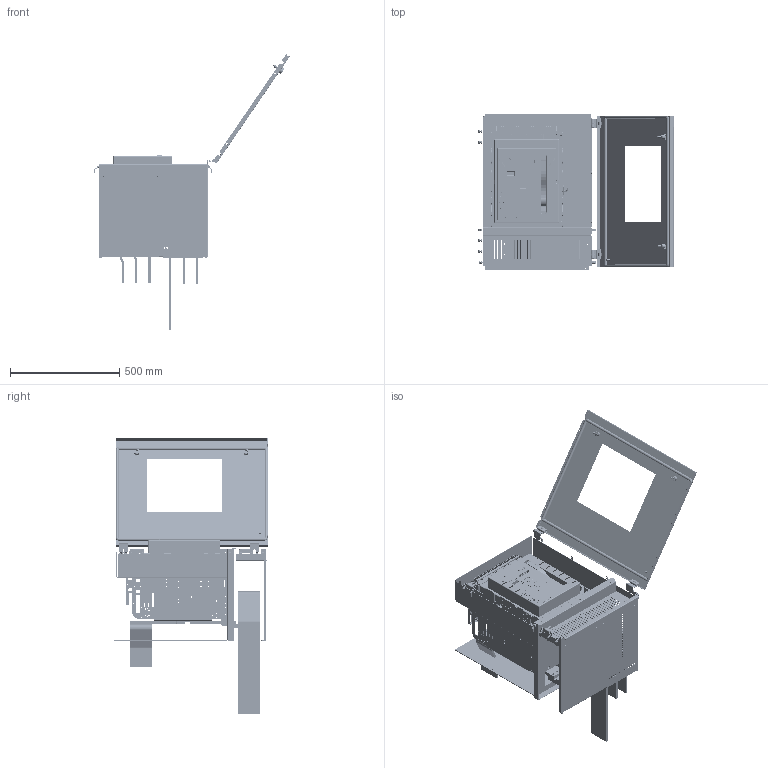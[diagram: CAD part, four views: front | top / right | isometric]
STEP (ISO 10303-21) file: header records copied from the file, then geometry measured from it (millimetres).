
FILE_DESCRIPTION(('CAx-IF Rec.Pracs.---Model Styling and Organization---1.2---2011-12-15','CAx-IF Rec.Pracs.---Geometric and Assembly Validation Properties---4.1---2014-06-16','CAx-IF Rec.Pracs.---PMI Polyline Presentation---2.0---2013-05-24'),'2;1');
FILE_NAME('R5M214IB5H61521R.stp','2021-05-05T12:51:30+03:00',(''),(''),'STEP Interface 4.4 by CT CoreTechnologie','3D_Evolution4.4 by CT CoreTechnologie','');
FILE_SCHEMA(('AUTOMOTIVE_DESIGN { 1 0 10303 214 1 1 1 1 }'));
Length unit declared in the file: millimetre
Products named in the file (32): R5M214IB5H61521R(äâóñòîðîííèé); M6 x 16-DIN 7991 ISR_thread; HNDT3W_-00; AC00C485; RB.0687.00.00.1_-00; HNDDR2W_-00; HNDDR1W_-00; HNDDR3W_-00 (HND); MS737-1-1(1); MS737-1-1 Z_ ªàëâ; MS737-1-1 stop_fixed; RB.1595.00.00.1_-00 (HND W); MS737-1-1(2); HGN06-16 W 3P_-01 (¢¥àå­¨¥ ª®­â ªâë); RB.1227.00.00.0_-01; HNDO_-01; RB.1454.00.00.0_-00; RB.1453.00.00.0_-00; RB.1452.00.00.0_-00; RB.1454.00.00.0_-01; RB.1455.00.00.0 ÑÁ_-00 (HGS W); RB.1455.00.01.0_-00; PF 7x14 MCC2.0_0700x0600; AC00C266; AC00C061_AC00C061; Ì6õ12-A5100231_straight; RB.0116.00.00.3_-00; RB.1233.00.00.0_-01; RB.1227.00.00.0_-00; RB.1226.00.00.0_-00; HNDT1W_-00; HNDT2W_-00
Assembly tree (64 placements, depth 3):
  R5M214IB5H61521R(äâóñòîðîííèé)
    M6 x 16-DIN 7991 ISR_thread  x12
    HNDT3W_-00
    AC00C485  x12
    RB.0687.00.00.1_-00  x2
    HNDDR2W_-00
    HNDDR1W_-00
    HNDDR3W_-00 (HND)
    MS737-1-1(1)
      MS737-1-1 Z_ ªàëâ
      MS737-1-1 stop_fixed
    RB.1595.00.00.1_-00 (HND W)
    MS737-1-1(2)
      MS737-1-1 stop_fixed
      MS737-1-1 Z_ ªàëâ
    HGN06-16 W 3P_-01 (¢¥àå­¨¥ ª®­â ªâë)
    RB.1227.00.00.0_-01
    HNDO_-01  x6
    RB.1454.00.00.0_-00
    RB.1453.00.00.0_-00
    RB.1452.00.00.0_-00  x2
    RB.1454.00.00.0_-01
    RB.1455.00.00.0 ÑÁ_-00 (HGS W)
      RB.1455.00.01.0_-00
      PF 7x14 MCC2.0_0700x0600
      AC00C266  x2
      AC00C061_AC00C061
      Ì6õ12-A5100231_straight
    RB.0116.00.00.3_-00  x2
    RB.1233.00.00.0_-01
    RB.1227.00.00.0_-00
    RB.1226.00.00.0_-00
    HNDT1W_-00
    HNDT2W_-00
Bounding box: 893.53 x 717 x 1262.5 mm (x, y, z)
Surface area: 6687157 mm2 (no closed solid volume)
Topology: 0 solids, 117 shells, 13484 faces, 39711 edges, 26216 vertices
Faces by surface type: plane 10130, cylinder 2720, bspline 634
Entity records: 409096 total; most frequent: CARTESIAN_POINT 83812, ORIENTED_EDGE 69391, DIRECTION 62802, EDGE_CURVE 35649, VECTOR 30730, LINE 30730, VERTEX_POINT 23979, AXIS2_PLACEMENT_3D 16036
